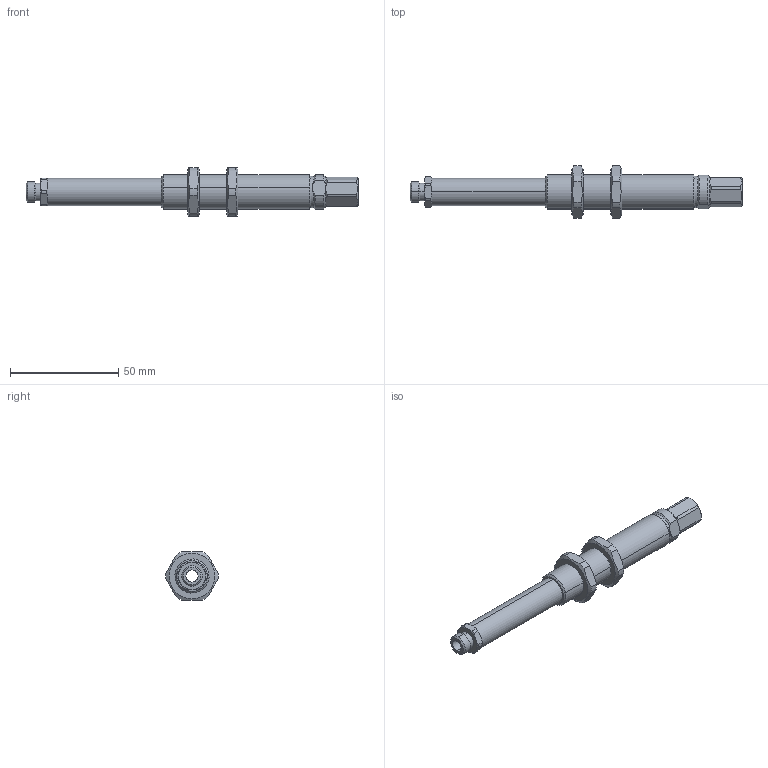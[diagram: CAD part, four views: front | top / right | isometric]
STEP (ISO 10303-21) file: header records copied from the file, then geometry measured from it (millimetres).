
FILE_DESCRIPTION (( 'STEP AP203' ), '1' );
FILE_NAME ('LC18X50-PUBLIC.STEP', '2011-06-27T19:31:04', ( '' ), ( '' ), 'SwSTEP 2.0', 'SolidWorks 2011', '' );
FILE_SCHEMA (( 'CONFIG_CONTROL_DESIGN' ));
Length unit declared in the file: inch
Products named in the file (1): LC18X50-PUBLIC
Bounding box: 153.16 x 24.11 x 22.23 mm (x, y, z)
Volume: 22089.9 mm3; surface area: 10946.6 mm2
Topology: 1 solids, 1 shells, 116 faces, 296 edges, 190 vertices
Faces by surface type: cylinder 44, plane 38, cone 34
Entity records: 3973 total; most frequent: CARTESIAN_POINT 1123, ORIENTED_EDGE 592, DIRECTION 572, EDGE_CURVE 296, AXIS2_PLACEMENT_3D 235, VERTEX_POINT 190, EDGE_LOOP 126, CIRCLE 118
